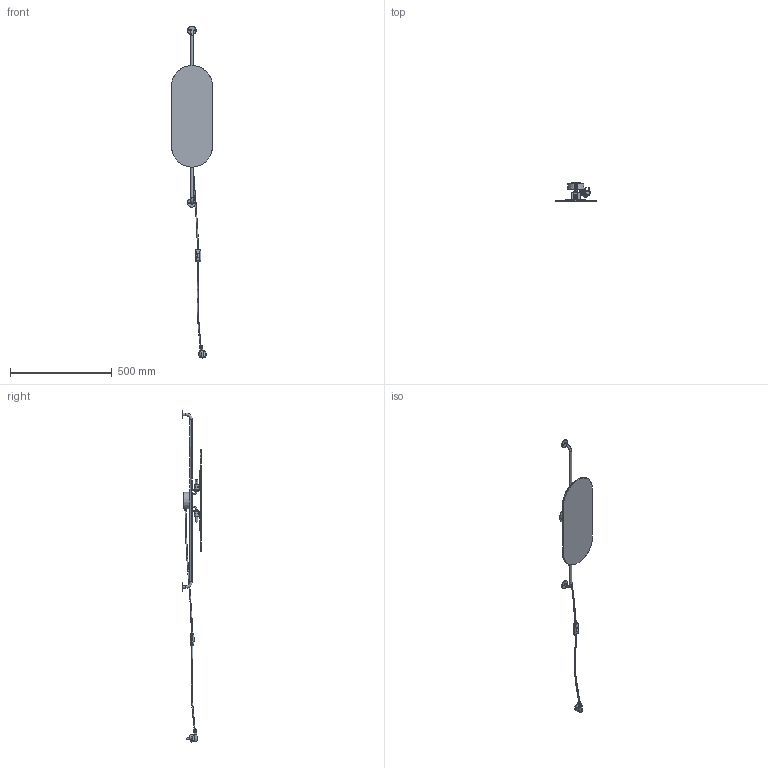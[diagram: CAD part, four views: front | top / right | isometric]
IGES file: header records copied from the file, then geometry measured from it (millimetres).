
Start section: SolidWorks IGES file using analytic representation for surfaces
Global section: file name: F:\GABRYSIA\MODELE 3D\WHEEL KINKIET\Z³o¿enie WHEEL KINKIET 1.IGS; native system: SolidWorks 2017; preprocessor: SolidWorks 2017; author: Togambi; date: 191214.130728; units: millimetre
Bounding box: 200 x 92.15 x 1631.33 mm (x, y, z)
Surface area: 384509.8 mm2 (no closed solid volume)
Topology: 0 solids, 0 shells, 1134 faces, 13631 edges, 13595 vertices
Faces by surface type: bspline 628, revolution 506
